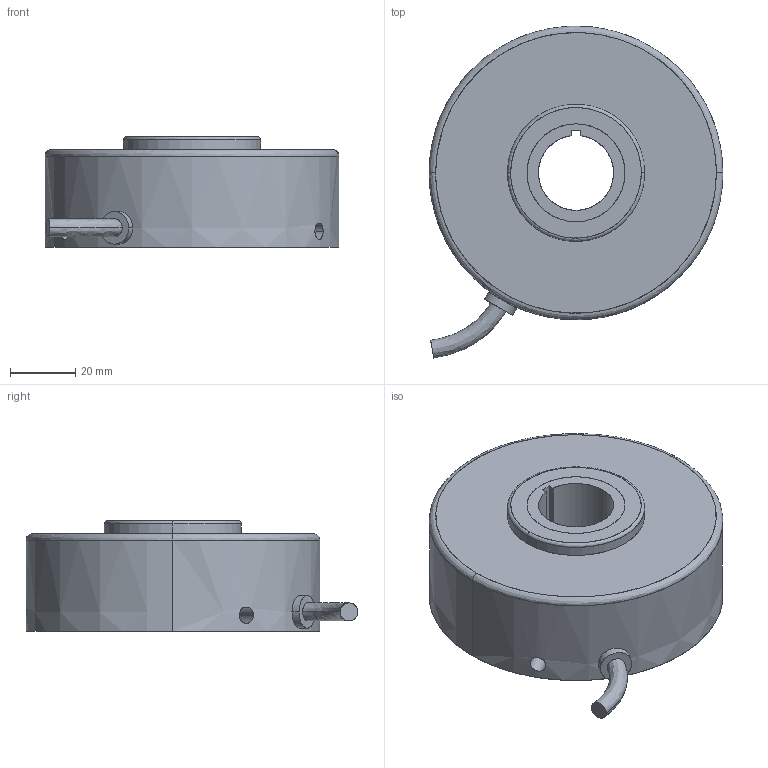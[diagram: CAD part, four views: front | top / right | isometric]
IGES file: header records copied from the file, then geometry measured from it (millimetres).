
Start section: SolidWorks IGES file using analytic representation for surfaces
Bounding box: 90 x 101.68 x 34 mm (x, y, z)
Surface area: 30188.5 mm2 (no closed solid volume)
Topology: 0 solids, 0 shells, 39 faces, 1258 edges, 1258 vertices
Faces by surface type: revolution 21, bspline 18
